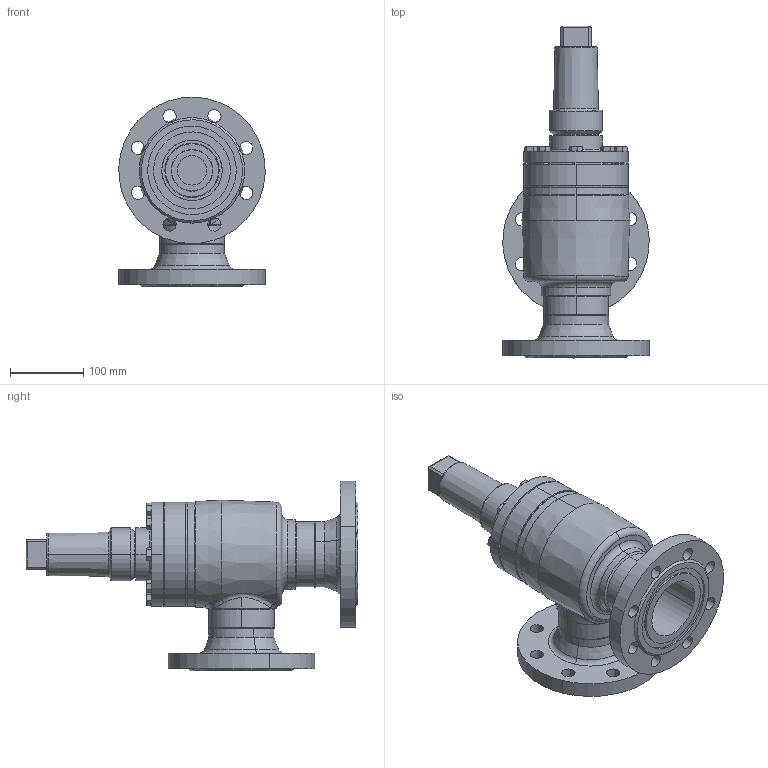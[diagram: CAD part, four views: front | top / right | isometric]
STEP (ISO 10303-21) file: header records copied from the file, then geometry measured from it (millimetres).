
FILE_DESCRIPTION (( 'STEP AP214' ), '1' );
FILE_NAME ('AVB16420D18-DN080_DIN-FL-N_PS40.STEP', '2007-01-08T07:22:39', ( 'Herr Grams' ), ( 'AWP GmbH' ), 'SwSTEP 2.0', 'SolidWorks 2002296', '' );
FILE_SCHEMA (( 'AUTOMOTIVE_DESIGN' ));
Length unit declared in the file: millimetre
Products named in the file (13): AVB16420D18-DN080_DIN-FL-N_PS40; AVB16300E18_Deck+Schr-DN80_Standard; Deckel16300E18-DN80_Standard; Sechskantschraube-DIN933_M10x 30; Gehäuse-kpl16420-DN080_DIN_PS40_Standard; Gehäuse-kpl16400-DN080_R1_Standard; Kopfstück16300-DN080_Standard; bead-DN080-1_Standard; Gehäuse16400-DN080_Standard; Flansch-DIN-Nut_PS40_DIN-Flansch-DN080_PS40-Nut; bead-DN080-3_Standard; bead-DN080-4_Standard; Kappe16402_DN080-100_Standard
Assembly tree (20 placements, depth 4):
  AVB16420D18-DN080_DIN-FL-N_PS40
    Kappe16402_DN080-100_Standard
    AVB16300E18_Deck+Schr-DN80_Standard
      Deckel16300E18-DN80_Standard
      Sechskantschraube-DIN933_M10x 30  x8
    Gehäuse-kpl16420-DN080_DIN_PS40_Standard
      Flansch-DIN-Nut_PS40_DIN-Flansch-DN080_PS40-Nut  x2
      bead-DN080-3_Standard
      Gehäuse-kpl16400-DN080_R1_Standard
        Kopfstück16300-DN080_Standard
        bead-DN080-1_Standard
        Gehäuse16400-DN080_Standard
      bead-DN080-4_Standard
Bounding box: 199.81 x 453 x 258.9 mm (x, y, z)
Volume: 3114481.8 mm3; surface area: 547952.5 mm2
Topology: 17 solids, 17 shells, 451 faces, 1030 edges, 631 vertices
Faces by surface type: cylinder 152, cone 141, plane 122, bspline 20, torus 16
Entity records: 19804 total; most frequent: CARTESIAN_POINT 13404, DIRECTION 1227, ORIENTED_EDGE 1104, EDGE_CURVE 552, AXIS2_PLACEMENT_3D 537, VERTEX_POINT 347, EDGE_LOOP 299, CIRCLE 293
